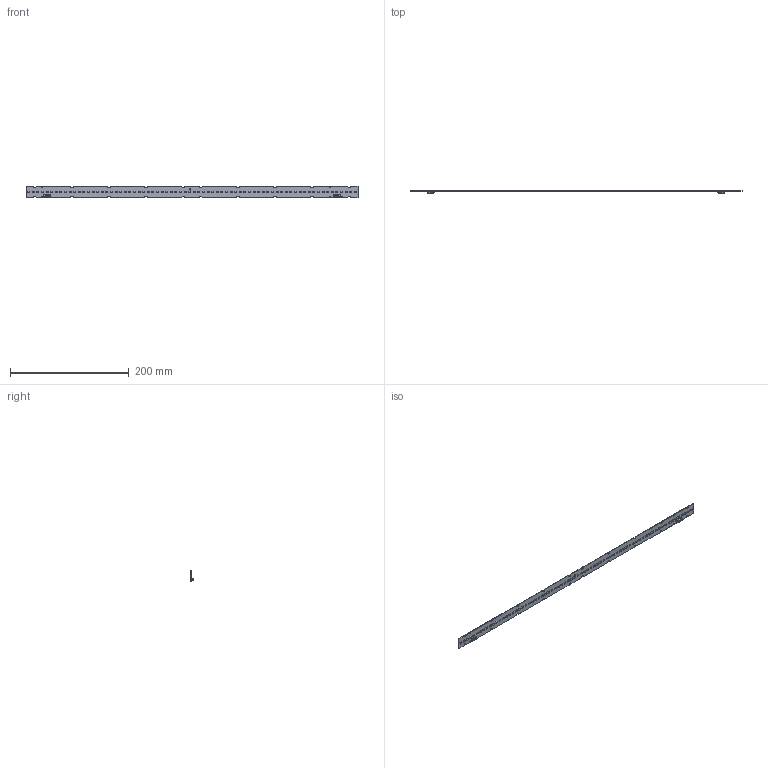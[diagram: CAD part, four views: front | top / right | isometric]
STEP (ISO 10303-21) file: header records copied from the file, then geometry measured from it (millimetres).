
FILE_DESCRIPTION(/* description */ ('Unknown'),/* implementation_level */ '2;1');
FILE_NAME(/* name */ 'LinLED 560x20mm 2200lm(72x2835) 2C sh-000 2018-06-18',/* time_stamp */ '2018-06-18T08:15:31+02:00',/* author */ ('Unknown'),/* organization */ ('Unknown'),/* preprocessor_version */ 'ST-DEVELOPER v16.7',/* originating_system */ 'DEX',/* authorisation */ $);
FILE_SCHEMA (('AUTOMOTIVE_DESIGN {1 0 10303 214 3 1 1}'));
Products named in the file (1): LinLED 560x20mm 2200lm(72x2835) 2C sh-000 2018-06-18
Bounding box: 560 x 4.5 x 20 mm (x, y, z)
Volume: 11833.3 mm3; surface area: 24496.6 mm2
Topology: 3 solids, 3 shells, 1821 faces, 4743 edges, 3090 vertices
Faces by surface type: plane 1492, cylinder 147, bspline 126, cone 30, sphere 16, torus 10
Full cylindrical faces by diameter (mm): 1.5 x1
Entity records: 67340 total; most frequent: CARTESIAN_POINT 14397, ORIENTED_EDGE 9436, DIRECTION 7960, EDGE_CURVE 4718, LINE 4024, VECTOR 4024, VERTEX_POINT 3084, EDGE_LOOP 2002
